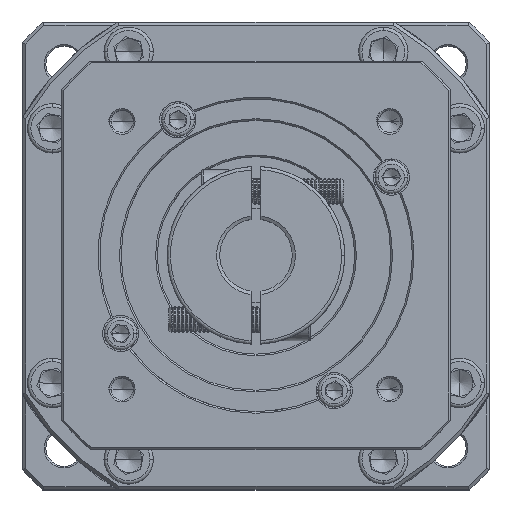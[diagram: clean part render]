
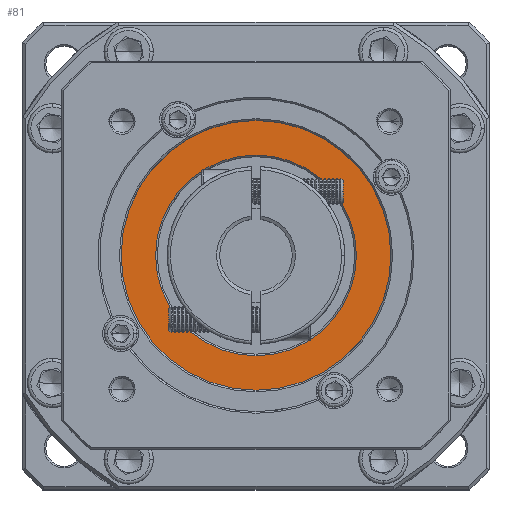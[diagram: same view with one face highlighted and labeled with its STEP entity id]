
A CAD part, top view. The second image highlights one B-rep face of the part: STEP entity #81.
In plain terms, the highlighted planar face has unit normal (0, 0, 1).
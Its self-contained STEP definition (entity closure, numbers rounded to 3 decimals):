
#81 = ADVANCED_FACE ( 'NONE', ( #53611, #120911 ), #71298, .T. ) ;
#778 = VERTEX_POINT ( 'NONE', #19005 ) ;
#7063 = AXIS2_PLACEMENT_3D ( 'NONE', #101944, #82613, #52910 ) ;
#8712 = VERTEX_POINT ( 'NONE', #83755 ) ;
#10482 = DIRECTION ( 'NONE',  ( 0., 0., 1. ) ) ;
#11289 = EDGE_CURVE ( 'NONE', #101676, #778, #49692, .T. ) ;
#13220 = EDGE_CURVE ( 'NONE', #778, #101676, #125508, .T. ) ;
#13361 = EDGE_LOOP ( 'NONE', ( #78488, #76438 ) ) ;
#17500 = AXIS2_PLACEMENT_3D ( 'NONE', #79002, #50200, #18761 ) ;
#18761 = DIRECTION ( 'NONE',  ( 1., 0., 0. ) ) ;
#19005 = CARTESIAN_POINT ( 'NONE',  ( 95.09, 123.633, 0.639 ) ) ;
#22129 = CIRCLE ( 'NONE', #104697, 41. ) ;
#25490 = ORIENTED_EDGE ( 'NONE', *, *, #117557, .T. ) ;
#34834 = DIRECTION ( 'NONE',  ( 1., 0., 0. ) ) ;
#38547 = EDGE_CURVE ( 'NONE', #8712, #109573, #102530, .T. ) ;
#40839 = ORIENTED_EDGE ( 'NONE', *, *, #38547, .T. ) ;
#49692 = CIRCLE ( 'NONE', #17500, 30.5 ) ;
#50200 = DIRECTION ( 'NONE',  ( 0., 0., -1. ) ) ;
#51967 = DIRECTION ( 'NONE',  ( 1., 0., 0. ) ) ;
#52910 = DIRECTION ( 'NONE',  ( 1., 0., 0. ) ) ;
#53611 = FACE_OUTER_BOUND ( 'NONE', #69607, .T. ) ;
#61055 = CARTESIAN_POINT ( 'NONE',  ( 64.59, 123.633, 0.639 ) ) ;
#69607 = EDGE_LOOP ( 'NONE', ( #40839, #25490 ) ) ;
#69899 = AXIS2_PLACEMENT_3D ( 'NONE', #61055, #10482, #70256 ) ;
#70256 = DIRECTION ( 'NONE',  ( 1., 0., 0. ) ) ;
#71298 = PLANE ( 'NONE',  #7063 ) ;
#76438 = ORIENTED_EDGE ( 'NONE', *, *, #11289, .T. ) ;
#78488 = ORIENTED_EDGE ( 'NONE', *, *, #13220, .T. ) ;
#79002 = CARTESIAN_POINT ( 'NONE',  ( 64.59, 123.633, 0.639 ) ) ;
#82613 = DIRECTION ( 'NONE',  ( 0., 0., 1. ) ) ;
#83755 = CARTESIAN_POINT ( 'NONE',  ( 105.59, 123.633, 0.639 ) ) ;
#90895 = CARTESIAN_POINT ( 'NONE',  ( 23.59, 123.633, 0.639 ) ) ;
#92601 = CARTESIAN_POINT ( 'NONE',  ( 64.59, 123.633, 0.639 ) ) ;
#101676 = VERTEX_POINT ( 'NONE', #125140 ) ;
#101944 = CARTESIAN_POINT ( 'NONE',  ( 64.59, 123.633, 0.639 ) ) ;
#102530 = CIRCLE ( 'NONE', #69899, 41. ) ;
#104697 = AXIS2_PLACEMENT_3D ( 'NONE', #92601, #121521, #51967 ) ;
#105610 = DIRECTION ( 'NONE',  ( 0., 0., -1. ) ) ;
#109573 = VERTEX_POINT ( 'NONE', #90895 ) ;
#115667 = CARTESIAN_POINT ( 'NONE',  ( 64.59, 123.633, 0.639 ) ) ;
#117557 = EDGE_CURVE ( 'NONE', #109573, #8712, #22129, .T. ) ;
#118184 = AXIS2_PLACEMENT_3D ( 'NONE', #115667, #105610, #34834 ) ;
#120911 = FACE_BOUND ( 'NONE', #13361, .T. ) ;
#121521 = DIRECTION ( 'NONE',  ( 0., 0., 1. ) ) ;
#125140 = CARTESIAN_POINT ( 'NONE',  ( 34.09, 123.633, 0.639 ) ) ;
#125508 = CIRCLE ( 'NONE', #118184, 30.5 ) ;
